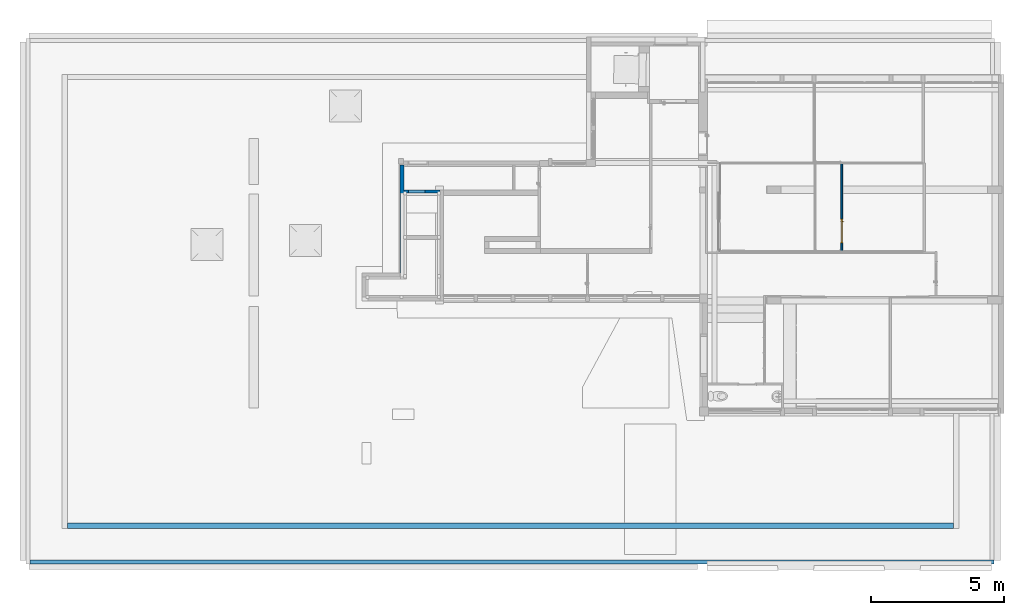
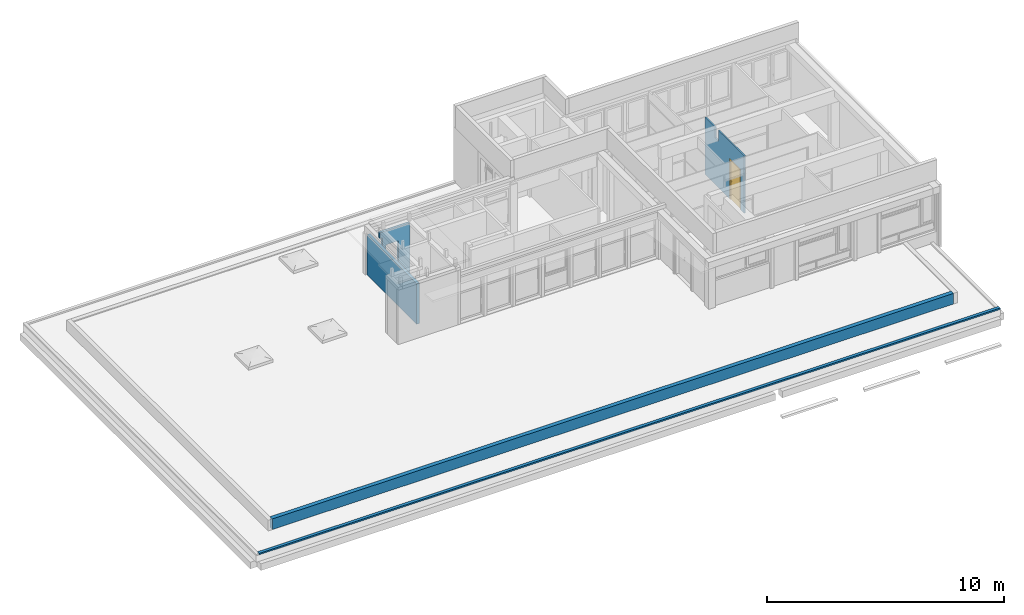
# One storey, part 30 of 49: 5 walls, 1 door, 2 openings.
"""IFC4 building model written with IfcOpenShell, lengths in metres."""

from ifc_helpers import new_model, entity, si_unit, converted_unit, derived_unit, direction, frame, origin, place, context, subcontext, project, spatial, indexed_curve, outline, extrude, polygons, source, transform, mapped, material, material_list, layer, layer_set, constituent, constituent_set, type_object, type_shapes, element, fill, save


model = new_model("IFC4")

# Units and contexts
model_context = context("Model", 3, precision=1e-05, world=origin(), true_north=direction((6.12303176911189e-17, 1.0)))
body_context = subcontext(model_context, "Body", "Model", "MODEL_VIEW")
ifc_project = project(units=[si_unit("LENGTHUNIT", "METRE"), si_unit("AREAUNIT", "SQUARE_METRE"), si_unit("VOLUMEUNIT", "CUBIC_METRE"), converted_unit("PLANEANGLEUNIT", "DEGREE", entity("IfcRatioMeasure", 0.0174532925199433), si_unit("PLANEANGLEUNIT", "RADIAN"), dimensions=[0, 0, 0, 0, 0, 0, 0]), si_unit("MASSUNIT", "GRAM", prefix="KILO"), derived_unit("MASSDENSITYUNIT", [(si_unit("MASSUNIT", "GRAM", prefix="KILO"), 1), (si_unit("LENGTHUNIT", "METRE"), -3)]), derived_unit("MOMENTOFINERTIAUNIT", [(si_unit("LENGTHUNIT", "METRE"), 4)]), si_unit("TIMEUNIT", "SECOND"), si_unit("FREQUENCYUNIT", "HERTZ"), si_unit("THERMODYNAMICTEMPERATUREUNIT", "DEGREE_CELSIUS"), derived_unit("THERMALTRANSMITTANCEUNIT", [(si_unit("MASSUNIT", "GRAM", prefix="KILO"), 1), (si_unit("THERMODYNAMICTEMPERATUREUNIT", "KELVIN"), -1), (si_unit("TIMEUNIT", "SECOND"), -3)]), derived_unit("VOLUMETRICFLOWRATEUNIT", [(si_unit("LENGTHUNIT", "METRE"), 3), (si_unit("TIMEUNIT", "SECOND"), -1)]), si_unit("ELECTRICCURRENTUNIT", "AMPERE"), si_unit("ELECTRICVOLTAGEUNIT", "VOLT"), si_unit("POWERUNIT", "WATT"), si_unit("FORCEUNIT", "NEWTON", prefix="KILO"), si_unit("ILLUMINANCEUNIT", "LUX"), si_unit("LUMINOUSFLUXUNIT", "LUMEN"), si_unit("LUMINOUSINTENSITYUNIT", "CANDELA"), derived_unit("USERDEFINED", [(si_unit("MASSUNIT", "GRAM", prefix="KILO"), -1), (si_unit("LENGTHUNIT", "METRE"), -2), (si_unit("TIMEUNIT", "SECOND"), 3), (si_unit("LUMINOUSFLUXUNIT", "LUMEN"), 1)]), derived_unit("LINEARVELOCITYUNIT", [(si_unit("LENGTHUNIT", "METRE"), 1), (si_unit("TIMEUNIT", "SECOND"), -1)]), si_unit("PRESSUREUNIT", "PASCAL"), derived_unit("USERDEFINED", [(si_unit("LENGTHUNIT", "METRE"), -2), (si_unit("MASSUNIT", "GRAM", prefix="KILO"), 1), (si_unit("TIMEUNIT", "SECOND"), -2)]), derived_unit("LINEARFORCEUNIT", [(si_unit("MASSUNIT", "GRAM", prefix="KILO"), 1), (si_unit("LENGTHUNIT", "METRE"), 1), (si_unit("TIMEUNIT", "SECOND"), -2), (si_unit("LENGTHUNIT", "METRE"), -1)]), derived_unit("PLANARFORCEUNIT", [(si_unit("MASSUNIT", "GRAM", prefix="KILO"), 1), (si_unit("LENGTHUNIT", "METRE"), 1), (si_unit("TIMEUNIT", "SECOND"), -2), (si_unit("LENGTHUNIT", "METRE"), -2)])], contexts=[model_context])

# Site, building, storey
site_placement = place(None, origin())
site = spatial("IfcSite", under=ifc_project, at=site_placement, Name="Default", CompositionType="ELEMENT")
building_placement = place(site_placement, origin())
building = spatial("IfcBuilding", under=site, at=building_placement, Name="HOTEL CONSULAIRE BOULOGNE SUR MER", CompositionType="ELEMENT")
storey_placement = place(building_placement, frame((0.0, 0.0, 6.81974152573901)))
storey = spatial("IfcBuildingStorey", under=building, at=storey_placement, Name="Niveau 2", CompositionType="ELEMENT", Elevation=6.81974152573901)

# Wall, opening, door
ifc_material_1 = material(Name="Mur par défaut", Category="Divers")
ifc_layer_1 = layer(ifc_material_1, 0.07, Name="Mur par défaut", Category="Divers")
ifc_layer_set_1 = layer_set([ifc_layer_1], Name="Mur de base:Générique - Int. 70 mm")
wall_type_1 = type_object("IfcWallType", Name="Mur de base:Générique - Int. 70 mm", PredefinedType="NOTDEFINED", material=ifc_layer_set_1)
wall_1_placement = place(storey_placement, frame((16.712075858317, -17.9553078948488, 0.0), z_axis=(0.0, 0.0, 1.0), x_axis=(0.0, 1.0, 0.0)))
wall_1 = element("IfcWall", 1, at=wall_1_placement, inside=storey, type_object=wall_type_1, material=ifc_layer_set_1, Name="Mur de base:Générique - Int. 70 mm", ObjectType="Mur de base:Générique - Int. 70 mm", PredefinedType="NOTDEFINED", context=body_context, shape_type="Tessellation", body=[
    polygons([(2.45739808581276, -0.0349999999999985, 2.95700000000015), (3.30288410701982, -0.0349999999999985, 2.95700000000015), (3.30288410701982, 0.0350000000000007, 2.95700000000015), (2.45739808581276, 0.0350000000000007, 2.95700000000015), (0.323999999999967, -0.0349999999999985, 0.0), (0.0, -0.0349999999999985, 0.0), (0.0, 0.0350000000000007, 0.0), (0.323999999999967, 0.0350000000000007, 0.0), (0.323999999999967, -0.0349999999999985, 2.075), (1.22399999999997, -0.0349999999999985, 2.075), (1.22399999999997, -0.0349999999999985, 0.0), (3.30288410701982, -0.0349999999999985, 0.0), (2.45739808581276, -0.0349999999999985, 2.402), (2.18739808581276, -0.0349999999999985, 2.402), (2.18739808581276, -0.0349999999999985, 2.95700000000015), (0.0, -0.0349999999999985, 2.95700000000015), (0.323999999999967, 0.0350000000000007, 2.075), (0.0, 0.0350000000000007, 2.95700000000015), (2.18739808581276, 0.0350000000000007, 2.95700000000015), (2.18739808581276, 0.0350000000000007, 2.402), (2.45739808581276, 0.0350000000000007, 2.402), (3.30288410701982, 0.0350000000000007, 0.0), (1.22399999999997, 0.0350000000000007, 0.0), (1.22399999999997, 0.0350000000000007, 2.075)], [[[3, 4, 1, 2]], [[13, 21, 20, 14]], [[19, 18, 16, 15]], [[7, 8, 5, 6]], [[10, 9, 17, 24]], [[11, 23, 22, 12]], [[9, 10, 11, 12, 2, 1, 13, 14, 15, 16, 6, 5]], [[22, 23, 24, 17, 8, 7, 18, 19, 20, 21, 4, 3]], [[2, 12, 22, 3]], [[9, 5, 8, 17]], [[14, 20, 19, 15]], [[6, 16, 18, 7]], [[11, 10, 24, 23]], [[1, 4, 21, 13]]], closed=True),
])
opening_1_placement = place(wall_1_placement, frame((1.22399999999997, 0.035, 0.0)))
opening_1 = element("IfcOpeningElement", 2, at=opening_1_placement, cuts=wall_1, Name="Int. Simple:PP (0.83m x 2.04m):1", ObjectType="Opening", PredefinedType="OPENING", context=body_context, shape_type="SweptSolid", body=[
    extrude(outline(indexed_curve([(0.0, 0.9), (0.0, 0.0), (2.075, 0.0), (2.075, 0.9), (0.0, 0.9)], self_intersect=False)), frame((0.0, 0.0, 0.0), z_axis=(0.0, -1.0, 0.0), x_axis=(0.0, 0.0, 1.0)), (0.0, 0.0, 1.0), 0.07),
])
ifc_material_2 = material(Name="Finition Peinture - Blanc satiné", Category="Peinture")
ifc_constituent_1 = constituent(ifc_material_2, Name="Finition Peinture - Blanc satiné", Category="Matériaux")
ifc_material_3 = material(Name="Bois - Panneau de porte", Category="Bois")
ifc_constituent_2 = constituent(ifc_material_3, Name="Bois - Panneau de porte", Category="Matériaux")
ifc_material_4 = material(Name="Bois - Cadre de porte", Category="Bois")
ifc_constituent_3 = constituent(ifc_material_4, Name="Bois - Cadre de porte", Category="Matériaux")
ifc_constituent_set = constituent_set(constituents=[ifc_constituent_1, ifc_constituent_2, ifc_constituent_3], Name="MaterialConstituentSet")
ifc_material_list = material_list([ifc_material_3, ifc_material_2, ifc_material_4, ifc_material_4])
door_type = type_object("IfcDoorType", Name="Int. Simple:PP (0.83m x 2.04m)", OperationType="NOTDEFINED", PredefinedType="DOOR", material=ifc_material_list)
shared_shape = source(origin(), body_context, "Body", "Tessellation", [
    polygons([(0.895000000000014, -0.00500000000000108, 0.870000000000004), (0.895000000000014, -0.00500000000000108, 1.08), (0.885352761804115, -0.00500000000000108, 1.08399601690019), (0.875000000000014, -0.00500000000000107, 1.08535898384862), (0.864647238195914, -0.00500000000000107, 1.08399601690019), (0.855000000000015, -0.00500000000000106, 1.08), (0.855000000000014, -0.00500000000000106, 0.870000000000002), (0.864647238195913, -0.00500000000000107, 0.866003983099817), (0.875000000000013, -0.00500000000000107, 0.86464101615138), (0.885352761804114, -0.00500000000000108, 0.866003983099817), (0.895000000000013, -1.07440722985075e-15, 0.870000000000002), (0.885352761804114, -1.07017728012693e-15, 0.866003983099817), (0.875000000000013, -1.06594733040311e-15, 0.86464101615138), (0.864647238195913, -1.06171738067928e-15, 0.866003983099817), (0.855000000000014, -1.05748743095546e-15, 0.870000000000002), (0.855000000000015, -1.05748743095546e-15, 1.08), (0.864647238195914, -1.06171738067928e-15, 1.08399601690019), (0.875000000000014, -1.06594733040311e-15, 1.08535898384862), (0.885352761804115, -1.07017728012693e-15, 1.08399601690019), (0.895000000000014, -1.07440722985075e-15, 1.08)], [[[1, 2, 3, 4, 5, 6, 7, 8, 9, 10]], [[20, 11, 12, 13, 14, 15, 16, 17, 18, 19]], [[10, 12, 11, 1]], [[9, 13, 12, 10]], [[8, 14, 13, 9]], [[8, 7, 15, 14]], [[15, 7, 6, 16]], [[5, 17, 16, 6]], [[4, 18, 17, 5]], [[3, 19, 18, 4]], [[3, 2, 20, 19]], [[11, 20, 2, 1]]], closed=True),
    polygons([(0.855000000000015, 0.0399999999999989, 1.08), (0.855000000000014, 0.0399999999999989, 0.870000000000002), (0.864647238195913, 0.0399999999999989, 0.866003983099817), (0.875000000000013, 0.0399999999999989, 0.86464101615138), (0.885352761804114, 0.0399999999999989, 0.866003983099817), (0.895000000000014, 0.0399999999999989, 0.870000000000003), (0.895000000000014, 0.0399999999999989, 1.08), (0.885352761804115, 0.0399999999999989, 1.08399601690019), (0.875000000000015, 0.0399999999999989, 1.08535898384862), (0.864647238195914, 0.0399999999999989, 1.08399601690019), (0.855000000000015, 0.0449999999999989, 1.08), (0.864647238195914, 0.0449999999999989, 1.08399601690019), (0.875000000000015, 0.0449999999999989, 1.08535898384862), (0.885352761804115, 0.0449999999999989, 1.08399601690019), (0.895000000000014, 0.0449999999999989, 1.08), (0.895000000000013, 0.0449999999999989, 0.870000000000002), (0.885352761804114, 0.0449999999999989, 0.866003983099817), (0.875000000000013, 0.0449999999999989, 0.86464101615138), (0.864647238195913, 0.0449999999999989, 0.866003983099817), (0.855000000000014, 0.0449999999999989, 0.870000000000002)], [[[6, 7, 8, 9, 10, 1, 2, 3, 4, 5]], [[13, 14, 15, 16, 17, 18, 19, 20, 11, 12]], [[10, 12, 11, 1]], [[9, 13, 12, 10]], [[8, 14, 13, 9]], [[8, 7, 15, 14]], [[16, 15, 7, 6]], [[5, 17, 16, 6]], [[4, 18, 17, 5]], [[3, 19, 18, 4]], [[3, 2, 20, 19]], [[20, 2, 1, 11]]], closed=True),
    polygons([(0.881000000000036, -0.00500000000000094, 1.00699999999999), (0.881000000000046, -0.00500000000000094, 0.992999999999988), (0.877025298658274, -0.00500000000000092, 0.99221955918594), (0.872974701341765, -0.00500000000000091, 0.992219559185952), (0.868999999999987, -0.00500000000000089, 0.993000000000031), (0.868999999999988, -0.00500000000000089, 1.007), (0.872974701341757, -0.00500000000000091, 1.00778044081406), (0.877025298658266, -0.00500000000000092, 1.00778044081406), (0.868999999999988, -0.0276803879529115, 1.007), (0.872974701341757, -0.0293267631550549, 1.00778044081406), (0.877025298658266, -0.0310045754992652, 1.00778044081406), (0.881000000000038, -0.0326509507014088, 1.007), (0.868999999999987, -0.0276803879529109, 0.993000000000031), (0.881000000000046, -0.0326509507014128, 0.992999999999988), (0.877025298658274, -0.0310045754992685, 0.99221955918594), (0.872974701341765, -0.0293267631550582, 0.992219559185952), (0.85765222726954, -0.0390281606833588, 1.007), (0.859298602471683, -0.0430028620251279, 1.00778044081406), (0.860976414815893, -0.0470534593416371, 1.00778044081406), (0.862622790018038, -0.051028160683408, 1.007), (0.857652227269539, -0.0390281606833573, 0.993000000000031), (0.862622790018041, -0.0510281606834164, 0.992999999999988), (0.860976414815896, -0.0470534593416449, 0.99221955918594), (0.859298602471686, -0.0430028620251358, 0.992219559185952), (0.774981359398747, -0.0510281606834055, 1.007), (0.774981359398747, -0.0470534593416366, 1.00778044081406), (0.774981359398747, -0.0430028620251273, 1.00778044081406), (0.774981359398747, -0.0390281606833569, 1.00699999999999), (0.774981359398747, -0.0390281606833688, 0.993000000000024), (0.774981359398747, -0.0430028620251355, 0.992219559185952), (0.774981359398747, -0.0470534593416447, 0.99221955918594), (0.774981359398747, -0.0510281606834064, 0.992999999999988), (0.822692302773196, -0.051028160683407, 1.007), (0.81713998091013, -0.045028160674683, 1.0078786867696), (0.816316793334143, -0.039028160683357, 1.007), (0.822692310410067, -0.0510281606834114, 0.992999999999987), (0.817139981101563, -0.0450281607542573, 0.992121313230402), (0.816316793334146, -0.039028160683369, 0.993000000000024)], [[[7, 8, 1, 2, 3, 4, 5, 6]], [[17, 21, 38, 29, 28, 35]], [[1, 8, 11, 12]], [[8, 7, 10, 18, 19, 11]], [[7, 6, 9, 10]], [[13, 9, 6, 5]], [[25, 26, 27, 28, 29, 30, 31, 32]], [[4, 16, 13, 5]], [[4, 3, 15, 23, 24, 16]], [[2, 14, 15, 3]], [[12, 14, 2, 1]], [[12, 11, 19, 20]], [[10, 9, 17, 18]], [[21, 17, 9, 13]], [[13, 16, 24, 21]], [[15, 14, 22, 23]], [[20, 22, 14, 12]], [[34, 26, 33]], [[33, 26, 25]], [[33, 20, 19]], [[18, 35, 34]], [[35, 18, 17]], [[28, 27, 35]], [[34, 27, 26]], [[34, 35, 27]], [[34, 33, 19]], [[18, 34, 19]], [[37, 30, 38]], [[31, 37, 36]], [[24, 38, 21]], [[30, 29, 38]], [[31, 36, 32]], [[36, 23, 22]], [[37, 23, 36]], [[37, 24, 23]], [[37, 38, 24]], [[30, 37, 31]], [[22, 20, 33, 25, 32, 36]]], closed=True),
    polygons([(0.868999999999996, 0.0449999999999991, 0.993000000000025), (0.872974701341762, 0.0449999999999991, 0.992219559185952), (0.877025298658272, 0.044999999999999, 0.99221955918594), (0.881000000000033, 0.044999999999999, 0.992999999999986), (0.881000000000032, 0.044999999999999, 1.007), (0.877025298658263, 0.044999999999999, 1.00778044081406), (0.872974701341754, 0.0449999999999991, 1.00778044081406), (0.868999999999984, 0.0449999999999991, 1.007), (0.868999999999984, 0.067485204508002, 1.007), (0.868999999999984, 0.0674852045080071, 0.993000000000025), (0.881000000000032, 0.0724557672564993, 1.007), (0.877025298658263, 0.070809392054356, 1.00778044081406), (0.872974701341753, 0.0691315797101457, 1.00778044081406), (0.881000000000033, 0.0724557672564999, 0.992999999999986), (0.872974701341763, 0.0691315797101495, 0.992219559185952), (0.877025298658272, 0.0708093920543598, 0.99221955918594), (0.857514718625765, 0.0789704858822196, 1.007), (0.857514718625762, 0.0789704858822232, 0.993000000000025), (0.862485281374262, 0.0909704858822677, 1.007), (0.860838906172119, 0.0869957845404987, 1.00778044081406), (0.859161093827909, 0.0829451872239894, 1.00778044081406), (0.862485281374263, 0.0909704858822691, 0.992999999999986), (0.859161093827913, 0.0829451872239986, 0.992219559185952), (0.860838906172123, 0.0869957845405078, 0.99221955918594), (0.77495421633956, 0.0789704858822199, 0.993000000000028), (0.77495421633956, 0.0789704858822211, 1.007), (0.77495421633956, 0.0829451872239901, 1.00778044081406), (0.77495421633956, 0.0869957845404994, 1.00778044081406), (0.77495421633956, 0.0909704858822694, 1.007), (0.77495421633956, 0.0909704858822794, 0.992999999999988), (0.77495421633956, 0.086995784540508, 0.99221955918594), (0.77495421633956, 0.0829451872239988, 0.992219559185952), (0.822554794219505, 0.0909704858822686, 1.007), (0.817057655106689, 0.0849704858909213, 1.0078786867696), (0.816234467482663, 0.0789704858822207, 1.007), (0.822554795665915, 0.0909704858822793, 0.992999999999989), (0.817057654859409, 0.0849704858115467, 0.992121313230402), (0.816234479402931, 0.0789704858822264, 0.993000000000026)], [[[2, 3, 4, 5, 6, 7, 8, 1]], [[18, 17, 35, 26, 25, 38]], [[9, 10, 1, 8]], [[27, 28, 29, 30, 31, 32, 25, 26]], [[7, 13, 9, 8]], [[7, 6, 12, 20, 21, 13]], [[5, 11, 12, 6]], [[11, 5, 4, 14]], [[4, 3, 16, 14]], [[3, 2, 15, 23, 24, 16]], [[2, 1, 10, 15]], [[17, 18, 10, 9]], [[9, 13, 21, 17]], [[11, 19, 20, 12]], [[22, 19, 11, 14]], [[14, 16, 24, 22]], [[15, 10, 18, 23]], [[34, 27, 35]], [[28, 34, 33]], [[21, 35, 17]], [[27, 26, 35]], [[28, 33, 29]], [[33, 20, 19]], [[34, 20, 33]], [[34, 21, 20]], [[34, 35, 21]], [[27, 34, 28]], [[19, 22, 36, 30, 29, 33]], [[37, 31, 36]], [[36, 31, 30]], [[36, 22, 24]], [[23, 38, 37]], [[38, 23, 18]], [[25, 32, 38]], [[37, 32, 31]], [[37, 38, 32]], [[37, 36, 24]], [[23, 37, 24]]], closed=True),
    polygons([(0.935000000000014, 0.04, 2.04), (0.935000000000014, 0.04, 0.0), (0.105000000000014, 0.04, 0.0), (0.105000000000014, 0.04, 2.04), (0.935000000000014, 2.53796983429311e-17, 2.04), (0.105000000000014, 2.53796983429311e-17, 2.04), (0.105000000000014, 2.53796983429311e-17, 0.0), (0.935000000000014, 2.53796983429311e-17, 0.0)], [[[3, 4, 1, 2]], [[5, 6, 7, 8]], [[5, 1, 4, 6]], [[6, 4, 3, 7]], [[8, 7, 3, 2]], [[8, 2, 1, 5]]], closed=True),
    polygons([(0.970000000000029, -4.22994972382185e-18, 0.0), (0.935000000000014, -4.22994972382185e-18, 0.0), (0.935000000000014, 0.04, 0.0), (0.920000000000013, 0.04, 0.0), (0.920000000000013, 0.0699999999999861, 0.0), (0.970000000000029, 0.0699999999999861, 0.0), (0.970000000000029, 0.0699999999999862, 2.07500000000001), (0.970000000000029, -4.22994972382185e-18, 2.07500000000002), (0.920000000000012, 0.0699999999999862, 2.025), (0.120000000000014, 0.0699999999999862, 2.025), (0.120000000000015, 0.0699999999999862, -4.08259727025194e-24), (0.0699999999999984, 0.0699999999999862, 5.8808818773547e-24), (0.0699999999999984, 0.0699999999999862, 2.07500000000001), (0.920000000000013, 0.04, 2.025), (0.935000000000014, 0.04, 2.04), (0.105000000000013, 0.04, 2.04), (0.105000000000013, 0.04, -2.52000145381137e-24), (0.120000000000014, 0.04, 1.99209647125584e-25), (0.120000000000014, 0.04, 2.025), (0.935000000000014, -4.22994972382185e-18, 2.04), (0.0699999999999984, -4.22994972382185e-18, 2.07500000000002), (0.0699999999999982, -4.22994972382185e-18, -3.95490699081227e-25), (0.105000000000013, -4.22994972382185e-18, -1.26556696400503e-24), (0.105000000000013, -4.22994972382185e-18, 2.04)], [[[4, 5, 6, 1, 2, 3]], [[17, 23, 22, 12, 11, 18]], [[19, 10, 9, 14]], [[24, 16, 15, 20]], [[7, 8, 1, 6]], [[11, 10, 19, 18]], [[23, 17, 16, 24]], [[9, 10, 11, 12, 13, 7, 6, 5]], [[9, 5, 4, 14]], [[15, 3, 2, 20]], [[12, 22, 21, 13]], [[19, 14, 4, 3, 15, 16, 17, 18]], [[24, 20, 2, 1, 8, 21, 22, 23]], [[13, 21, 8, 7]]], closed=True),
    polygons([(0.955000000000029, 0.0699999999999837, 1.35358391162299e-16), (0.955000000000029, 0.0749999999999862, 1.35358391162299e-16), (0.985000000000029, 0.0749999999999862, 1.35358391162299e-16), (0.985000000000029, 0.0699999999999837, 1.35358391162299e-16), (0.985000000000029, 0.0699999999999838, 2.09000000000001), (0.0550000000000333, 0.0699999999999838, 2.09000000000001), (0.0550000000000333, 0.0699999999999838, -4.03399441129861e-24), (0.0850000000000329, 0.0699999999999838, 4.03399441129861e-24), (0.0850000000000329, 0.0699999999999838, 2.06000000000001), (0.955000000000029, 0.0699999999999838, 2.06000000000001), (0.985000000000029, 0.0749999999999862, 2.09000000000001), (0.955000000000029, 0.0749999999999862, 2.06000000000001), (0.0850000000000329, 0.0749999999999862, 2.06000000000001), (0.0850000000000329, 0.0749999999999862, 0.0), (0.0550000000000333, 0.0749999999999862, -4.03399441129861e-24), (0.0550000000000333, 0.0749999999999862, 2.09000000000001)], [[[2, 3, 4, 1]], [[7, 15, 14, 8]], [[13, 12, 10, 9]], [[9, 10, 1, 4, 5, 6, 7, 8]], [[11, 5, 4, 3]], [[8, 14, 13, 9]], [[12, 13, 14, 15, 16, 11, 3, 2]], [[10, 12, 2, 1]], [[15, 7, 6, 16]], [[16, 6, 5, 11]]], closed=True),
    polygons([(0.955000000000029, -0.005, 1.35358391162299e-16), (0.955000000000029, -8.33300095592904e-16, 1.35358391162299e-16), (0.985000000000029, -8.33300095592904e-16, 1.35358391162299e-16), (0.985000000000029, -0.005, 1.35358391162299e-16), (0.0850000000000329, -0.005, -1.35358391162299e-16), (0.0550000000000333, -0.005, -1.35358391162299e-16), (0.0550000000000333, -8.33300095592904e-16, -1.35358391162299e-16), (0.0850000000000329, -8.33300095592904e-16, -1.35358391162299e-16), (0.985000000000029, -0.005, 2.09000000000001), (0.0550000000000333, -0.005, 2.09000000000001), (0.0850000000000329, -0.005, 2.06000000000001), (0.955000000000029, -0.005, 2.06000000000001), (0.985000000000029, -8.33300095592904e-16, 2.09000000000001), (0.955000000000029, -8.33300095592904e-16, 2.06000000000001), (0.0850000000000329, -8.33300095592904e-16, 2.06000000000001), (0.0550000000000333, -8.33300095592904e-16, 2.09000000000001)], [[[2, 3, 4, 1]], [[6, 7, 8, 5]], [[15, 14, 12, 11]], [[11, 12, 1, 4, 9, 10, 6, 5]], [[9, 4, 3, 13]], [[5, 8, 15, 11]], [[14, 15, 8, 7, 16, 13, 3, 2]], [[12, 14, 2, 1]], [[6, 10, 16, 7]], [[10, 9, 13, 16]]], closed=True),
])
type_shapes(door_type, [shared_shape])
door_placement = place(opening_1_placement, frame((-0.970000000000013, -0.0700000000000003, 0.0)))
door = element("IfcDoor", 3, at=door_placement, inside=storey, type_object=door_type, material=ifc_constituent_set, Name="Int. Simple:PP (0.83m x 2.04m)", ObjectType="Int. Simple:PP (0.83m x 2.04m)", OperationType="NOTDEFINED", OverallHeight=2.075, OverallWidth=0.900000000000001, PredefinedType="DOOR", context=body_context, shape_type="MappedRepresentation", body=[
    mapped(shared_shape, transform((0.0, 0.0, 0.0), scale=1.0)),
])
fill(opening_1, door)

# Wall
ifc_layer_2 = layer(ifc_material_1, 0.15, Name="Mur par défaut", Category="Divers")
ifc_layer_set_2 = layer_set([ifc_layer_2], Name="Mur de base:Générique - Int. 150 mm")
wall_type_2 = type_object("IfcWallType", Name="Mur de base:Générique - Int. 150 mm", PredefinedType="NOTDEFINED", material=ifc_layer_set_2)
wall_2_placement = place(storey_placement, frame((0.216635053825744, -18.9046212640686, 0.642000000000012), z_axis=(0.0, 0.0, 1.0), x_axis=(0.0, 1.0, 0.0)))
element("IfcWall", 4, at=wall_2_placement, inside=storey, type_object=wall_type_2, material=ifc_layer_set_2, Name="Mur de base:Générique - Int. 150 mm", ObjectType="Mur de base:Générique - Int. 150 mm", PredefinedType="NOTDEFINED", context=body_context, shape_type="Tessellation", body=[
    polygons([(4.19171034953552, -0.075, 2.088), (0.0, -0.075, 2.088), (0.0, -0.075, 0.0), (3.14937922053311, -0.075, 0.0), (3.14937922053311, -0.075, 0.0391112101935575), (2.39237922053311, -0.075, 0.0391112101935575), (2.39237922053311, -0.075, 0.139111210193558), (3.14937922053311, -0.075, 0.139111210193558), (3.14937922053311, -0.075, 0.0579999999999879), (4.19171034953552, -0.075, 0.0579999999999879), (0.0, 0.075, 2.088), (0.150000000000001, 0.075, 2.088), (4.19171034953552, 0.075, 2.088), (4.19171034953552, 0.075, 0.0), (0.0, 0.075, 0.0), (4.19171034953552, 5.79878630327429e-17, 0.0579999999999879), (4.19171034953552, 5.79878630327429e-17, 0.0), (3.14937922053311, 3.32260245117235e-16, 0.0391112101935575), (2.39237922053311, 4.59614648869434e-16, 0.0391112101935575), (2.39237922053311, 4.59614648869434e-16, 0.139111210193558), (3.14937922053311, 3.32260245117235e-16, 0.139111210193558), (3.14937922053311, 3.66099842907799e-16, 0.0), (3.14937922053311, 3.6609984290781e-16, 0.0579999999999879)], [[[3, 4, 5, 6, 7, 8, 9, 10, 1, 2]], [[16, 23, 21, 20, 19, 18, 22, 17]], [[13, 14, 15, 11, 12]], [[2, 1, 13, 12, 11]], [[19, 6, 5, 18]], [[16, 17, 14, 13, 1, 10]], [[7, 6, 19, 20]], [[18, 5, 4, 22]], [[11, 15, 3, 2]], [[8, 21, 23, 9]], [[8, 7, 20, 21]], [[22, 4, 3, 15, 14, 17]], [[16, 10, 9, 23]]], closed=True),
])

# Wall, opening
ifc_layer_3 = layer(ifc_material_1, 0.12, Name="Mur par défaut", Category="Divers")
ifc_layer_set_3 = layer_set([ifc_layer_3], Name="Mur de base:Générique - Int.120")
wall_type_3 = type_object("IfcWallType", Name="Mur de base:Générique - Int.120", PredefinedType="NOTDEFINED", material=ifc_layer_set_3)
wall_3_placement = place(storey_placement, frame((1.62747131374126, -15.6952420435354, 0.700000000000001), z_axis=(0.0, 0.0, 1.0), x_axis=(-1.0, 0.0, 0.0)))
wall_3 = element("IfcWall", 5, at=wall_3_placement, inside=storey, type_object=wall_type_3, material=ifc_layer_set_3, Name="Mur de base:Générique - Int.120", ObjectType="Mur de base:Générique - Int.120", PredefinedType="NOTDEFINED", context=body_context, shape_type="Tessellation", body=[
    polygons([(1.46583625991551, -0.0600000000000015, 2.7419), (4.05876595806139e-16, -0.0600000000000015, 2.7419), (4.05876595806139e-16, -0.0600000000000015, 2.35199999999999), (4.05876595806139e-16, -0.0600000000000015, 2.122), (4.05876595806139e-16, -0.0600000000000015, -1.08286712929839e-15), (1.33583625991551, -0.0600000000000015, -1.08286712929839e-15), (1.33583625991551, -0.0600000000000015, 2.122), (1.33583625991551, -0.0600000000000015, 2.35199999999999), (1.33583625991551, -0.0600000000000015, 2.44800000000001), (1.46583625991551, -0.0600000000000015, 2.44800000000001), (0.549, -0.0600000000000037, 2.01938946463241), (1.17022791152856, -0.0600000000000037, 2.01938946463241), (1.17022791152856, -0.0600000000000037, 0.0802852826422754), (0.549, -0.0600000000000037, 0.0802852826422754), (2.46092409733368e-17, 0.0599999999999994, 2.7419), (1.33583625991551, 0.0599999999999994, 2.7419), (1.46583625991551, 0.0599999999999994, 2.7419), (1.46583625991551, 0.0599999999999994, 2.44800000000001), (1.33583625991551, 0.0599999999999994, 2.44800000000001), (1.33583625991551, 0.0599999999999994, 0.0811112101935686), (1.33583625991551, 0.0599999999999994, -1.08286712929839e-15), (2.46092409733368e-17, 0.0599999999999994, -1.08286712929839e-15), (2.46092409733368e-17, 0.0599999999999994, 0.0811112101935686), (1.17022791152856, 0.0599999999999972, 2.01938946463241), (0.549, 0.0599999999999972, 2.01938946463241), (0.549, 0.0599999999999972, 0.0802852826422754), (1.17022791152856, 0.0599999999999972, 0.0802852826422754)], [[[5, 6, 7, 8, 9, 10, 1, 2, 3, 4], [11, 12, 13, 14]], [[20, 21, 22, 23, 15, 16, 17, 18, 19], [27, 24, 25, 26]], [[2, 1, 17, 16, 15]], [[13, 27, 26, 14]], [[15, 23, 22, 5, 4, 3, 2]], [[13, 12, 24, 27]], [[11, 25, 24, 12]], [[19, 18, 10, 9]], [[21, 6, 5, 22]], [[14, 26, 25, 11]], [[6, 21, 20, 19, 9, 8, 7]], [[1, 10, 18, 17]]], closed=True),
])
opening_2_placement = place(wall_3_placement, frame((1.17022791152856, 0.0599999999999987, 0.0802852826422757)))
element("IfcOpeningElement", 6, at=opening_2_placement, cuts=wall_3, Name="Mur de base:Générique - Int.120", ObjectType="Opening", PredefinedType="OPENING", context=body_context, shape_type="SweptSolid", body=[
    extrude(outline(indexed_curve([(-0.969552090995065, -0.310613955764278), (0.969552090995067, -0.310613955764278), (0.969552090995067, 0.310613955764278), (-0.969552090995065, 0.310613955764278), (-0.969552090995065, -0.310613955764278)], self_intersect=False)), frame((-0.310613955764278, -0.120000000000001, 0.969552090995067), z_axis=(0.0, 1.0, 0.0), x_axis=(0.0, 0.0, -1.0)), (0.0, 0.0, 1.0), 0.119999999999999),
])

# Walls
ifc_layer_4 = layer(ifc_material_1, 0.2, Name="Mur par défaut", Category="Divers")
ifc_layer_set_4 = layer_set([ifc_layer_4], Name="Mur de base:Générique - Ext. 200 mm")
wall_type_4 = type_object("IfcWallType", Name="Mur de base:Générique - Ext. 200 mm", PredefinedType="NOTDEFINED", material=ifc_layer_set_4)
wall_4_placement = place(storey_placement, frame((20.902875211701, -28.2378463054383, 0.142000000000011), z_axis=(0.0, 0.0, 1.0), x_axis=(-1.0, 0.0, 0.0)))
element("IfcWall", 7, at=wall_4_placement, inside=storey, type_object=wall_type_4, material=ifc_layer_set_4, Name="Mur de base:Générique - Ext. 200 mm", ObjectType="Mur de base:Générique - Ext. 200 mm", PredefinedType="NOTDEFINED", context=body_context, shape_type="Tessellation", body=[
    polygons([(33.2527433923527, -0.0999999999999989, 0.546999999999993), (7.20760242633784e-17, -0.0999999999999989, 0.546999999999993), (7.20760242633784e-17, -0.0999999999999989, 1.08286712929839e-15), (33.2527433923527, -0.0999999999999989, 1.08286712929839e-15), (-5.73948990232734e-16, 0.0999999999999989, 0.546999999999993), (33.2527433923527, 0.0999999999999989, 0.546999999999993), (33.2527433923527, 0.0999999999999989, 1.08286712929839e-15), (-5.73948990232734e-16, 0.0999999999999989, 1.08286712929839e-15)], [[[2, 3, 4, 1]], [[6, 7, 8, 5]], [[2, 1, 6, 5]], [[4, 7, 6, 1]], [[8, 3, 2, 5]], [[8, 7, 4, 3]]], closed=True),
])
ifc_layer_5 = layer(ifc_material_1, 0.15, Name="Mur par défaut", Category="Divers")
ifc_layer_set_5 = layer_set([ifc_layer_5], Name="Mur de base:Générique - Ext. 150 mm")
wall_type_5 = type_object("IfcWallType", Name="Mur de base:Générique - Ext. 150 mm", PredefinedType="NOTDEFINED", material=ifc_layer_set_5)
wall_5_placement = place(storey_placement, frame((-13.7577173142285, -29.5998025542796, 0.142000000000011)))
element("IfcWall", 8, at=wall_5_placement, inside=storey, type_object=wall_type_5, material=ifc_layer_set_5, Name="Mur de base:Générique - Ext. 150 mm", ObjectType="Mur de base:Générique - Ext. 150 mm", PredefinedType="NOTDEFINED", context=body_context, shape_type="Tessellation", body=[
    polygons([(36.1713376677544, -0.0750000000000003, 0.0750000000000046), (29.4261408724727, -0.0750000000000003, 0.0750000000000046), (29.2461408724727, -0.0750000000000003, 0.0750000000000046), (28.2441951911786, -0.0750000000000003, 0.0750000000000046), (28.0641951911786, -0.0750000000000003, 0.0750000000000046), (0.0, -0.0750000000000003, 0.0750000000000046), (0.0, -0.0750000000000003, 1.08286712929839e-15), (36.1713376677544, -0.0750000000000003, 1.08286712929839e-15), (0.0, 0.0750000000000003, 0.0750000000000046), (28.0641951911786, 0.0750000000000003, 0.0750000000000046), (28.2441951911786, 0.0750000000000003, 0.0750000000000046), (29.2461408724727, 0.0750000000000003, 0.0750000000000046), (29.4261408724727, 0.0750000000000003, 0.0750000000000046), (36.0213376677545, 0.0750000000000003, 0.0750000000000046), (36.1713376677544, 0.0750000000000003, 0.0750000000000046), (36.1713376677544, 0.0750000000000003, 1.08286712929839e-15), (29.4261408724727, 0.0750000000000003, 1.08286712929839e-15), (29.2461408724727, 0.0750000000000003, 1.08286712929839e-15), (28.2441951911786, 0.0750000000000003, 1.08286712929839e-15), (28.0641951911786, 0.0750000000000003, 1.08286712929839e-15), (0.0, 0.0750000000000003, 1.08286712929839e-15)], [[[7, 8, 1, 2, 3, 4, 5, 6]], [[14, 15, 16, 17, 18, 19, 20, 21, 9, 10, 11, 12, 13]], [[4, 3, 2, 1, 15, 14, 13, 12, 11, 10, 9, 6, 5]], [[21, 7, 6, 9]], [[1, 8, 16, 15]], [[21, 20, 19, 18, 17, 16, 8, 7]]], closed=True),
])

save(model, "model.ifc")
